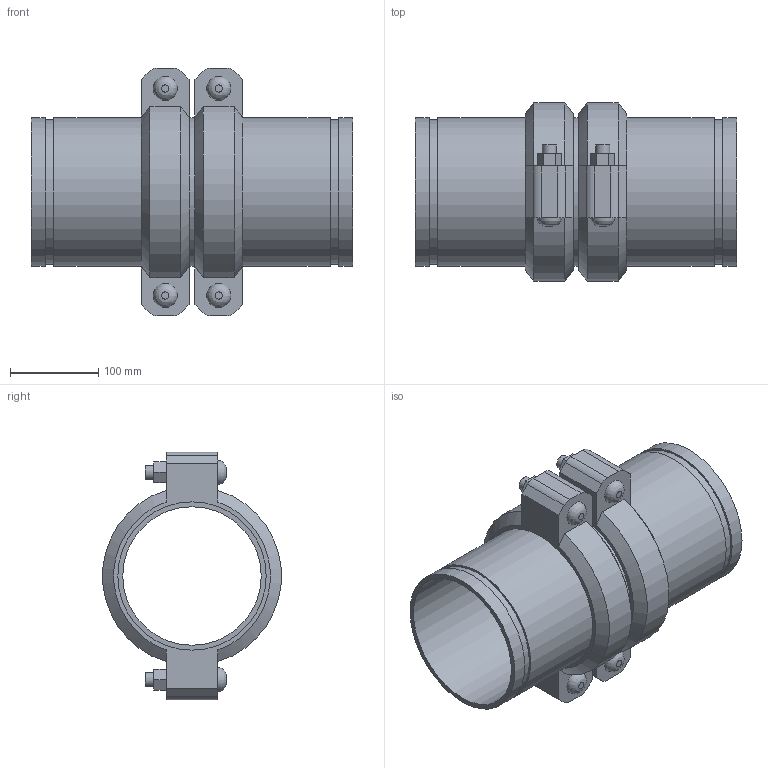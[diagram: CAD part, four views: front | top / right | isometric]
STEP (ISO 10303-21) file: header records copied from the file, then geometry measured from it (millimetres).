
FILE_DESCRIPTION(/* description */ ('VIC EXPANSION JOINT 2 COUPLINGS COMPRESSED STYLE 155 (OGS)','CAx-IF Rec.Pracs.---Representation and Presentation of Product Manufacturing Information (PMI)---4.0---2014-10-13'),/* implementation_level */ '2;1');
FILE_NAME(/* name */ 'C:\Users\kkamble\AppData\Roaming\Autodesk\ApplicationPlugins\Victaulic.Temp\A11\Victaulic_IPS_Expansion Joint_Compressed_2 Couplings_Style 155 (OGS)_6 (150).stp',/* time_stamp */ '2021-06-27T00:23:46+02:00',/* author */ ('kkamble'),/* organization */ ('Victaulic'),/* preprocessor_version */ 'ST-DEVELOPER v17.2',/* originating_system */ 'Autodesk Inventor 2019',/* authorisation */ '');
FILE_SCHEMA (('AP242_MANAGED_MODEL_BASED_3D_ENGINEERING_MIM_LF { 1 0 10303 442 1 1 4 }'));
Length unit declared in the file: inch
Products named in the file (4): 155-06.0; Nipple-06.0; Nipple-06.0_1; 075_2_Coup-06.0
Assembly tree (5 placements, depth 2):
  155-06.0
    Nipple-06.0  x2
    Nipple-06.0_1
    075_2_Coup-06.0  x2
Bounding box: 364.49 x 202.46 x 281.18 mm (x, y, z)
Volume: 2469838.4 mm3; surface area: 627745.4 mm2
Topology: 5 solids, 9 shells, 150 faces, 356 edges, 252 vertices
Faces by surface type: plane 90, cylinder 48, cone 8, bspline 4
Full cylindrical faces by diameter (mm): 15.875 x8, 17.424 x4, 157.15 x3, 161.925 x2, 163.957 x6, 168.275 x13
Entity records: 2762 total; most frequent: CARTESIAN_POINT 489, DIRECTION 453, ORIENTED_EDGE 386, EDGE_CURVE 193, AXIS2_PLACEMENT_3D 180, VERTEX_POINT 138, EDGE_LOOP 107, LINE 93
